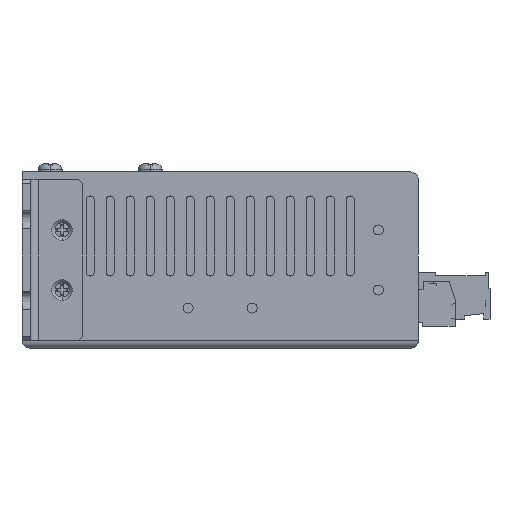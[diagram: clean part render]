
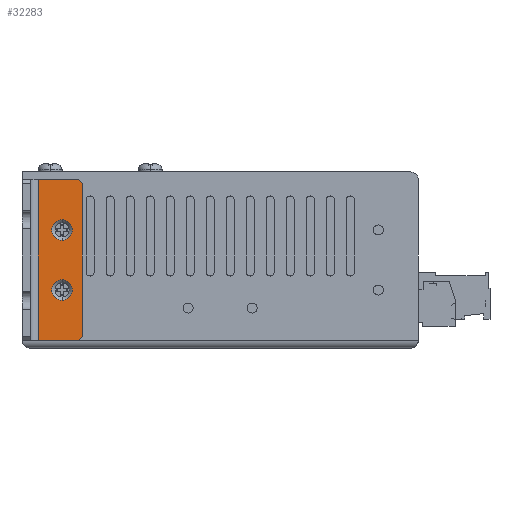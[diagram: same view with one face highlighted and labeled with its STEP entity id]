
A CAD part, left-side view. The second image highlights one B-rep face of the part: STEP entity #32283.
In plain terms, the highlighted planar face has unit normal (-1, 0, 0).
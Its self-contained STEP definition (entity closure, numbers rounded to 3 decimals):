
#8791 = AXIS2_PLACEMENT_3D ( 'NONE', #12163, #12166, #12167 ) ;
#8792 = AXIS2_PLACEMENT_3D ( 'NONE', #12168, #12170, #12171 ) ;
#11472 = LINE ( 'NONE', #12139, #11473 ) ;
#11473 = VECTOR ( 'NONE', #12140, 1000. ) ;
#11474 = LINE ( 'NONE', #12148, #11481 ) ;
#11481 = VECTOR ( 'NONE', #12152, 1000. ) ;
#11483 = VECTOR ( 'NONE', #12164, 1000. ) ;
#11490 = VECTOR ( 'NONE', #12169, 1000. ) ;
#11491 = LINE ( 'NONE', #12150, #11483 ) ;
#11494 = VECTOR ( 'NONE', #12173, 1000. ) ;
#11495 = LINE ( 'NONE', #12160, #11490 ) ;
#11497 = CIRCLE ( 'NONE', #8791, 2.55 ) ;
#11499 = LINE ( 'NONE', #12165, #11494 ) ;
#11500 = CIRCLE ( 'NONE', #8792, 2.55 ) ;
#11501 = LINE ( 'NONE', #12174, #11502 ) ;
#11502 = VECTOR ( 'NONE', #12175, 1000. ) ;
#12139 = CARTESIAN_POINT ( 'NONE',  ( -82., 45.5, 20. ) ) ;
#12140 = DIRECTION ( 'NONE',  ( 0., -1., 0. ) ) ;
#12148 = CARTESIAN_POINT ( 'NONE',  ( -82., 45.5, -20. ) ) ;
#12150 = CARTESIAN_POINT ( 'NONE',  ( -82., 45.5, -20. ) ) ;
#12152 = DIRECTION ( 'NONE',  ( 0., -1., 0. ) ) ;
#12160 = CARTESIAN_POINT ( 'NONE',  ( -82., 34.5, -20. ) ) ;
#12163 = CARTESIAN_POINT ( 'NONE',  ( -82., 39.5, -7.5 ) ) ;
#12164 = DIRECTION ( 'NONE',  ( 0., 0., 1. ) ) ;
#12165 = CARTESIAN_POINT ( 'NONE',  ( -82., 20.5, 5. ) ) ;
#12166 = DIRECTION ( 'NONE',  ( 1., 0., 0. ) ) ;
#12167 = DIRECTION ( 'NONE',  ( 0., 0., 1. ) ) ;
#12168 = CARTESIAN_POINT ( 'NONE',  ( -82., 39.5, 7.5 ) ) ;
#12169 = DIRECTION ( 'NONE',  ( 0., 0., 1. ) ) ;
#12170 = DIRECTION ( 'NONE',  ( 1., 0., 0. ) ) ;
#12171 = DIRECTION ( 'NONE',  ( 0., 0., 1. ) ) ;
#12173 = DIRECTION ( 'NONE',  ( 0., 0.707, 0.707 ) ) ;
#12174 = CARTESIAN_POINT ( 'NONE',  ( -82., 40.5, -25. ) ) ;
#12175 = DIRECTION ( 'NONE',  ( 0., -0.707, 0.707 ) ) ;
#16877 = FACE_BOUND ( 'NONE', #38571, .T. ) ;
#16879 = FACE_BOUND ( 'NONE', #38253, .T. ) ;
#16885 = FACE_OUTER_BOUND ( 'NONE', #38576, .T. ) ;
#17624 = PLANE ( 'NONE',  #18426 ) ;
#17625 = CARTESIAN_POINT ( 'NONE',  ( -82., 45.5, -20. ) ) ;
#17626 = DIRECTION ( 'NONE',  ( -1., 0., 0. ) ) ;
#17627 = DIRECTION ( 'NONE',  ( 0., 0., 1. ) ) ;
#18426 = AXIS2_PLACEMENT_3D ( 'NONE', #17625, #17626, #17627 ) ;
#18633 = AXIS2_PLACEMENT_3D ( 'NONE', #21453, #21459, #21460 ) ;
#18635 = AXIS2_PLACEMENT_3D ( 'NONE', #21458, #21465, #21469 ) ;
#19821 = CIRCLE ( 'NONE', #18633, 2.55 ) ;
#19827 = CIRCLE ( 'NONE', #18635, 2.55 ) ;
#20198 = CARTESIAN_POINT ( 'NONE',  ( -82., 39.5, 4.95 ) ) ;
#20341 = CARTESIAN_POINT ( 'NONE',  ( -82., 39.5, -10.05 ) ) ;
#20376 = CARTESIAN_POINT ( 'NONE',  ( -82., 39.5, -4.95 ) ) ;
#20583 = CARTESIAN_POINT ( 'NONE',  ( -82., 39.5, 10.05 ) ) ;
#21453 = CARTESIAN_POINT ( 'NONE',  ( -82., 39.5, 7.5 ) ) ;
#21458 = CARTESIAN_POINT ( 'NONE',  ( -82., 39.5, -7.5 ) ) ;
#21459 = DIRECTION ( 'NONE',  ( 1., 0., 0. ) ) ;
#21460 = DIRECTION ( 'NONE',  ( 0., 0., 1. ) ) ;
#21465 = DIRECTION ( 'NONE',  ( 1., 0., 0. ) ) ;
#21469 = DIRECTION ( 'NONE',  ( 0., 0., 1. ) ) ;
#28304 = CARTESIAN_POINT ( 'NONE',  ( -82., 45.5, 20. ) ) ;
#28306 = CARTESIAN_POINT ( 'NONE',  ( -82., 34.5, 19. ) ) ;
#28307 = CARTESIAN_POINT ( 'NONE',  ( -82., 35.5, 20. ) ) ;
#28308 = CARTESIAN_POINT ( 'NONE',  ( -82., 35.5, -20. ) ) ;
#28316 = CARTESIAN_POINT ( 'NONE',  ( -82., 45.5, -20. ) ) ;
#28320 = CARTESIAN_POINT ( 'NONE',  ( -82., 34.5, -19. ) ) ;
#31644 = EDGE_CURVE ( 'NONE', #39219, #39223, #11472, .T. ) ;
#31649 = EDGE_CURVE ( 'NONE', #39251, #39245, #11474, .T. ) ;
#31654 = EDGE_CURVE ( 'NONE', #39251, #39219, #11491, .T. ) ;
#31655 = EDGE_CURVE ( 'NONE', #33220, #33284, #11497, .T. ) ;
#31656 = EDGE_CURVE ( 'NONE', #39262, #39263, #11495, .T. ) ;
#31657 = EDGE_CURVE ( 'NONE', #32933, #33580, #11500, .T. ) ;
#31658 = EDGE_CURVE ( 'NONE', #39263, #39223, #11499, .T. ) ;
#31659 = EDGE_CURVE ( 'NONE', #39245, #39262, #11501, .T. ) ;
#32283 = ADVANCED_FACE ( 'NONE', ( #16877, #16879, #16885 ), #17624, .T. ) ;
#32933 = VERTEX_POINT ( 'NONE', #20198 ) ;
#33220 = VERTEX_POINT ( 'NONE', #20341 ) ;
#33284 = VERTEX_POINT ( 'NONE', #20376 ) ;
#33580 = VERTEX_POINT ( 'NONE', #20583 ) ;
#34563 = ORIENTED_EDGE ( 'NONE', *, *, #35394, .T. ) ;
#34564 = ORIENTED_EDGE ( 'NONE', *, *, #31655, .T. ) ;
#34566 = ORIENTED_EDGE ( 'NONE', *, *, #35385, .T. ) ;
#34568 = ORIENTED_EDGE ( 'NONE', *, *, #31657, .T. ) ;
#34570 = ORIENTED_EDGE ( 'NONE', *, *, #31656, .T. ) ;
#34572 = ORIENTED_EDGE ( 'NONE', *, *, #31658, .T. ) ;
#34574 = ORIENTED_EDGE ( 'NONE', *, *, #31644, .F. ) ;
#34576 = ORIENTED_EDGE ( 'NONE', *, *, #31654, .F. ) ;
#34577 = ORIENTED_EDGE ( 'NONE', *, *, #31649, .T. ) ;
#34579 = ORIENTED_EDGE ( 'NONE', *, *, #31659, .T. ) ;
#35385 = EDGE_CURVE ( 'NONE', #33580, #32933, #19821, .T. ) ;
#35394 = EDGE_CURVE ( 'NONE', #33284, #33220, #19827, .T. ) ;
#38253 = EDGE_LOOP ( 'NONE', ( #34566, #34568 ) ) ;
#38571 = EDGE_LOOP ( 'NONE', ( #34563, #34564 ) ) ;
#38576 = EDGE_LOOP ( 'NONE', ( #34570, #34572, #34574, #34576, #34577, #34579 ) ) ;
#39219 = VERTEX_POINT ( 'NONE', #28304 ) ;
#39223 = VERTEX_POINT ( 'NONE', #28307 ) ;
#39245 = VERTEX_POINT ( 'NONE', #28308 ) ;
#39251 = VERTEX_POINT ( 'NONE', #28316 ) ;
#39262 = VERTEX_POINT ( 'NONE', #28320 ) ;
#39263 = VERTEX_POINT ( 'NONE', #28306 ) ;
